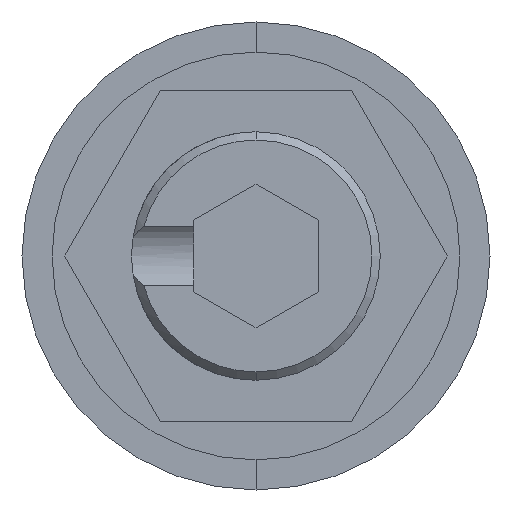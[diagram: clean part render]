
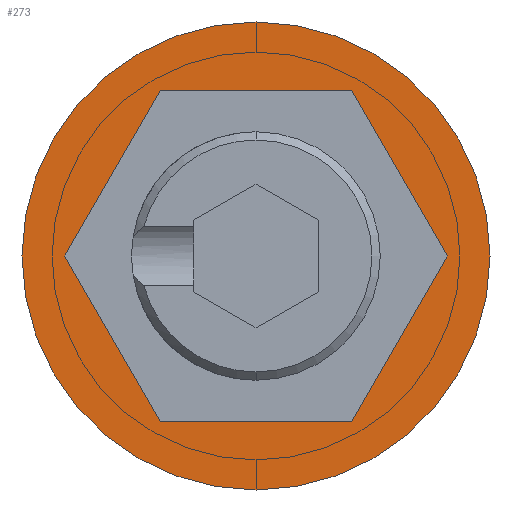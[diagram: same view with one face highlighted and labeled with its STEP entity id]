
A CAD part, front view. The second image highlights one B-rep face of the part: STEP entity #273.
In plain terms, the highlighted planar face has unit normal (0, -1, 0).
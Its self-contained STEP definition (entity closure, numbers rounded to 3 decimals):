
#40 = CARTESIAN_POINT ( 'NONE',  ( -4.619, 0., 0. ) ) ;
#46 = EDGE_CURVE ( 'NONE', #707, #1213, #318, .T. ) ;
#70 = DIRECTION ( 'NONE',  ( 0.5, 0., -0.866 ) ) ;
#74 = CARTESIAN_POINT ( 'NONE',  ( 0., 0., 5.65 ) ) ;
#103 = AXIS2_PLACEMENT_3D ( 'NONE', #348, #335, #333 ) ;
#137 = AXIS2_PLACEMENT_3D ( 'NONE', #564, #561, #558 ) ;
#188 = FACE_OUTER_BOUND ( 'NONE', #1243, .T. ) ;
#196 = FACE_BOUND ( 'NONE', #1262, .T. ) ;
#242 = VECTOR ( 'NONE', #1821, 1000. ) ;
#273 = ADVANCED_FACE ( 'NONE', ( #196, #188 ), #903, .T. ) ;
#296 = LINE ( 'NONE', #1781, #242 ) ;
#303 = VECTOR ( 'NONE', #1144, 1000. ) ;
#318 = LINE ( 'NONE', #601, #303 ) ;
#333 = DIRECTION ( 'NONE',  ( 0., 0., -1. ) ) ;
#335 = DIRECTION ( 'NONE',  ( 0., -1., 0. ) ) ;
#348 = CARTESIAN_POINT ( 'NONE',  ( 0., 0., 0. ) ) ;
#356 = CARTESIAN_POINT ( 'NONE',  ( -2.309, 0., -4. ) ) ;
#467 = CARTESIAN_POINT ( 'NONE',  ( 2.309, 0., 4. ) ) ;
#485 = VERTEX_POINT ( 'NONE', #1293 ) ;
#558 = DIRECTION ( 'NONE',  ( 0., 0., -1. ) ) ;
#561 = DIRECTION ( 'NONE',  ( 0., -1., 0. ) ) ;
#564 = CARTESIAN_POINT ( 'NONE',  ( 0., 0., 0. ) ) ;
#601 = CARTESIAN_POINT ( 'NONE',  ( -2.309, 0., -4. ) ) ;
#625 = ORIENTED_EDGE ( 'NONE', *, *, #46, .F. ) ;
#637 = EDGE_CURVE ( 'NONE', #870, #1463, #1699, .T. ) ;
#640 = ORIENTED_EDGE ( 'NONE', *, *, #914, .F. ) ;
#642 = ORIENTED_EDGE ( 'NONE', *, *, #1174, .F. ) ;
#643 = ORIENTED_EDGE ( 'NONE', *, *, #1356, .F. ) ;
#644 = ORIENTED_EDGE ( 'NONE', *, *, #1419, .F. ) ;
#645 = ORIENTED_EDGE ( 'NONE', *, *, #1904, .F. ) ;
#647 = ORIENTED_EDGE ( 'NONE', *, *, #699, .T. ) ;
#649 = ORIENTED_EDGE ( 'NONE', *, *, #637, .T. ) ;
#665 = VERTEX_POINT ( 'NONE', #467 ) ;
#699 = EDGE_CURVE ( 'NONE', #1463, #870, #1571, .T. ) ;
#707 = VERTEX_POINT ( 'NONE', #356 ) ;
#720 = VECTOR ( 'NONE', #1380, 1000. ) ;
#723 = LINE ( 'NONE', #1376, #720 ) ;
#790 = VECTOR ( 'NONE', #1274, 1000. ) ;
#818 = LINE ( 'NONE', #1255, #790 ) ;
#870 = VERTEX_POINT ( 'NONE', #74 ) ;
#887 = CARTESIAN_POINT ( 'NONE',  ( 0., 0., 0. ) ) ;
#903 = PLANE ( 'NONE',  #1792 ) ;
#914 = EDGE_CURVE ( 'NONE', #485, #707, #1319, .T. ) ;
#915 = DIRECTION ( 'NONE',  ( 0., -1., 0. ) ) ;
#955 = CARTESIAN_POINT ( 'NONE',  ( -2.309, 0., 4. ) ) ;
#982 = DIRECTION ( 'NONE',  ( -0.5, 0., -0.866 ) ) ;
#988 = CARTESIAN_POINT ( 'NONE',  ( -2.309, 0., 4. ) ) ;
#1038 = CARTESIAN_POINT ( 'NONE',  ( 2.309, 0., -4. ) ) ;
#1071 = DIRECTION ( 'NONE',  ( 0., 0., -1. ) ) ;
#1078 = VECTOR ( 'NONE', #982, 1000. ) ;
#1097 = LINE ( 'NONE', #988, #1078 ) ;
#1144 = DIRECTION ( 'NONE',  ( 1., 0., 0. ) ) ;
#1152 = VERTEX_POINT ( 'NONE', #955 ) ;
#1174 = EDGE_CURVE ( 'NONE', #1152, #485, #1097, .T. ) ;
#1213 = VERTEX_POINT ( 'NONE', #1038 ) ;
#1243 = EDGE_LOOP ( 'NONE', ( #647, #649 ) ) ;
#1255 = CARTESIAN_POINT ( 'NONE',  ( 2.309, 0., 4. ) ) ;
#1262 = EDGE_LOOP ( 'NONE', ( #625, #640, #642, #643, #644, #645 ) ) ;
#1274 = DIRECTION ( 'NONE',  ( -1., 0., 0. ) ) ;
#1293 = CARTESIAN_POINT ( 'NONE',  ( -4.619, 0., 0. ) ) ;
#1307 = VECTOR ( 'NONE', #70, 1000. ) ;
#1319 = LINE ( 'NONE', #40, #1307 ) ;
#1356 = EDGE_CURVE ( 'NONE', #665, #1152, #818, .T. ) ;
#1376 = CARTESIAN_POINT ( 'NONE',  ( 4.619, 0., 0. ) ) ;
#1380 = DIRECTION ( 'NONE',  ( -0.5, 0., 0.866 ) ) ;
#1419 = EDGE_CURVE ( 'NONE', #2066, #665, #723, .T. ) ;
#1454 = CARTESIAN_POINT ( 'NONE',  ( 0., 0., -5.65 ) ) ;
#1463 = VERTEX_POINT ( 'NONE', #1454 ) ;
#1571 = CIRCLE ( 'NONE', #103, 5.65 ) ;
#1699 = CIRCLE ( 'NONE', #137, 5.65 ) ;
#1781 = CARTESIAN_POINT ( 'NONE',  ( 2.309, 0., -4. ) ) ;
#1792 = AXIS2_PLACEMENT_3D ( 'NONE', #887, #915, #1071 ) ;
#1821 = DIRECTION ( 'NONE',  ( 0.5, 0., 0.866 ) ) ;
#1845 = CARTESIAN_POINT ( 'NONE',  ( 4.619, 0., 0. ) ) ;
#1904 = EDGE_CURVE ( 'NONE', #1213, #2066, #296, .T. ) ;
#2066 = VERTEX_POINT ( 'NONE', #1845 ) ;
